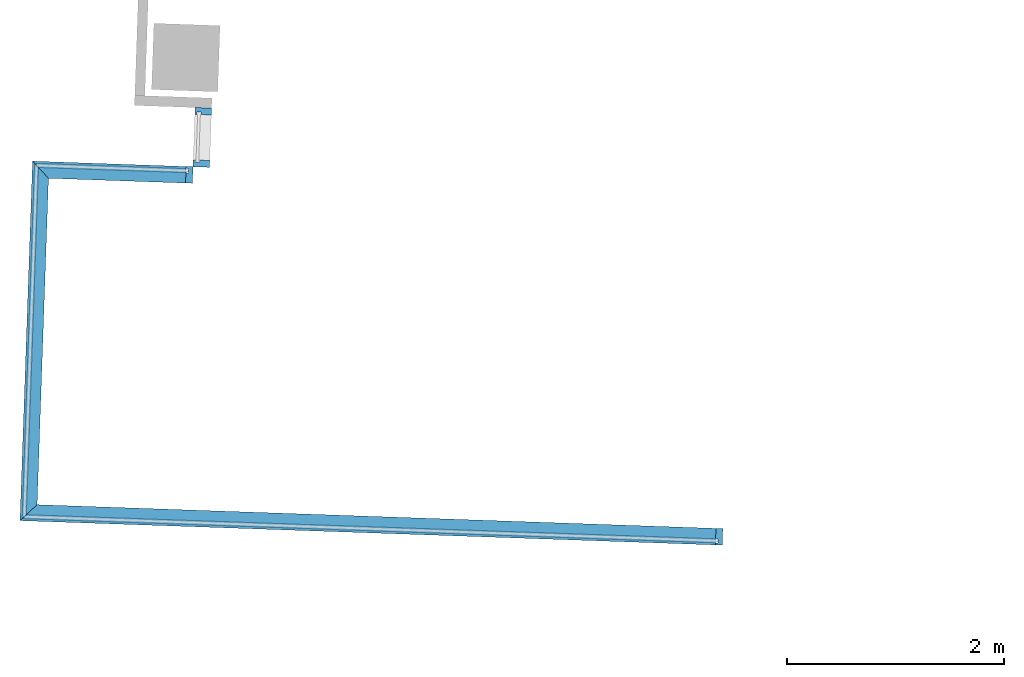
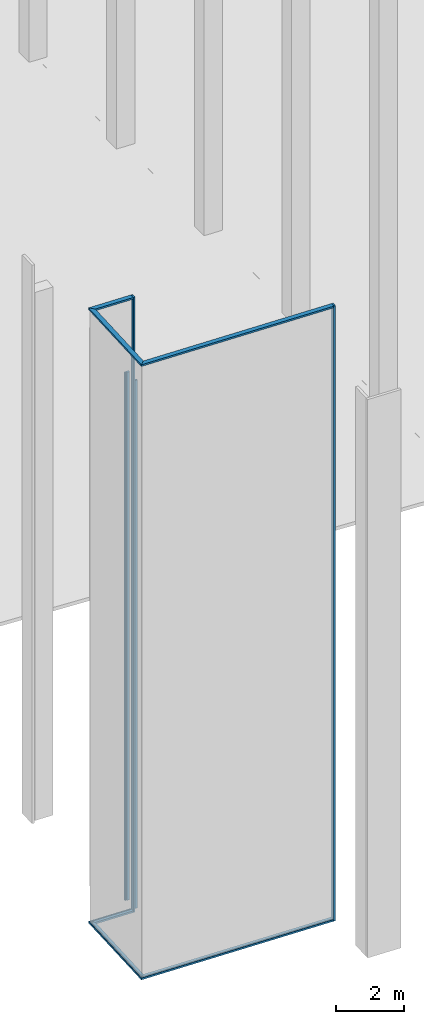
# One storey, part 8 of 44: 10 members, 4 elements without a shape of their own.
"""IFC2X3 building model written with IfcOpenShell, lengths in feet."""

from ifc_helpers import new_model, entity, si_unit, converted_unit, derived_unit, direction, frame, origin, place, context, subcontext, project, spatial, polyline, outline, extrude, clip, halfspace, material, type_object, element, aggregate, save


model = new_model("IFC2X3")

# Units and contexts
model_context = context("Model", 3, precision=0.0001, world=origin(), true_north=direction((0.999390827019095, 0.0348994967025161)))
body_context = subcontext(model_context, "Body", "Model", "MODEL_VIEW")
ifc_project = project(units=[converted_unit("LENGTHUNIT", "FOOT", entity("IfcRatioMeasure", 0.3048), si_unit("LENGTHUNIT", "METRE"), dimensions=[1, 0, 0, 0, 0, 0, 0]), converted_unit("AREAUNIT", "SQUARE FOOT", entity("IfcRatioMeasure", 0.09290304), si_unit("AREAUNIT", "SQUARE_METRE"), dimensions=[2, 0, 0, 0, 0, 0, 0]), converted_unit("VOLUMEUNIT", "CUBIC FOOT", entity("IfcRatioMeasure", 0.028316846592), si_unit("VOLUMEUNIT", "CUBIC_METRE"), dimensions=[3, 0, 0, 0, 0, 0, 0]), converted_unit("PLANEANGLEUNIT", "DEGREE", entity("IfcRatioMeasure", 0.0174532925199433), si_unit("PLANEANGLEUNIT", "RADIAN"), dimensions=[0, 0, 0, 0, 0, 0, 0]), si_unit("MASSUNIT", "GRAM", prefix="KILO"), si_unit("TIMEUNIT", "SECOND"), si_unit("FREQUENCYUNIT", "HERTZ"), si_unit("THERMODYNAMICTEMPERATUREUNIT", "DEGREE_CELSIUS"), derived_unit("THERMALTRANSMITTANCEUNIT", [(si_unit("MASSUNIT", "GRAM", prefix="KILO"), 1), (si_unit("THERMODYNAMICTEMPERATUREUNIT", "KELVIN"), -1), (si_unit("TIMEUNIT", "SECOND"), -3)]), derived_unit("VOLUMETRICFLOWRATEUNIT", [(si_unit("LENGTHUNIT", "METRE"), 3), (si_unit("TIMEUNIT", "SECOND"), -1)]), si_unit("ELECTRICCURRENTUNIT", "AMPERE"), si_unit("ELECTRICVOLTAGEUNIT", "VOLT"), si_unit("POWERUNIT", "WATT"), si_unit("FORCEUNIT", "NEWTON"), si_unit("ILLUMINANCEUNIT", "LUX"), si_unit("LUMINOUSFLUXUNIT", "LUMEN"), si_unit("LUMINOUSINTENSITYUNIT", "CANDELA"), derived_unit("USERDEFINED", [(si_unit("MASSUNIT", "GRAM", prefix="KILO"), -1), (si_unit("LENGTHUNIT", "METRE"), -2), (si_unit("TIMEUNIT", "SECOND"), 3), (si_unit("LUMINOUSFLUXUNIT", "LUMEN"), 1)]), derived_unit("LINEARVELOCITYUNIT", [(si_unit("LENGTHUNIT", "METRE"), 1), (si_unit("TIMEUNIT", "SECOND"), -1)]), si_unit("PRESSUREUNIT", "PASCAL"), derived_unit("USERDEFINED", [(si_unit("LENGTHUNIT", "METRE"), -2), (si_unit("MASSUNIT", "GRAM", prefix="KILO"), 1), (si_unit("TIMEUNIT", "SECOND"), -2)])], contexts=[model_context])

# Site, building, storey
site_placement = place(None, frame((892.518771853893, 322.38689265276, 0.00393700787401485), z_axis=(0.0, 0.0, 1.0), x_axis=(0.0348994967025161, 0.999390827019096, 0.0)))
site = spatial("IfcSite", under=ifc_project, at=site_placement, Name="Default", CompositionType="ELEMENT")
building_placement = place(site_placement, origin())
building = spatial("IfcBuilding", under=site, at=building_placement, CompositionType="ELEMENT")
storey_placement = place(building_placement, frame((0.0, 0.0, 544.75)))
storey = spatial("IfcBuildingStorey", under=building, at=storey_placement, Name="Exist Garage - Ground Level", CompositionType="ELEMENT", Elevation=544.75)

# Curtain wall, members
curtain_wall_type = type_object("IfcCurtainWallType", Name="Curtain Wall:(Existing) Curtainwall - Blank", PredefinedType="NOTDEFINED")
curtain_wall_1_placement = place(storey_placement, frame((0.0, 0.0, -544.75)))
curtain_wall_1 = element("IfcCurtainWall", 1, at=curtain_wall_1_placement, inside=storey, type_object=curtain_wall_type, Name="Curtain Wall:(Existing) Curtainwall - Blank", ObjectType="Curtain Wall:(Existing) Curtainwall - Blank")
ifc_material = material(Name="Metal - Aluminum")
member_1_placement = place(curtain_wall_1_placement, frame((0.0, 0.0, 544.75)))
member_1 = element("IfcMember", 2, at=member_1_placement, material=ifc_material, Name="Curtain Wall:(Existing) Curtainwall - Blank", ObjectType="Curtain Wall:(Existing) Curtainwall - Blank", context=body_context, shape_type="Clipping", body=[
    clip(extrude(outline(polyline([(-0.0716145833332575, -0.3125), (0.136718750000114, -0.3125), (0.136718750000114, 0.1875), (-0.0716145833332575, 0.1875), (-0.0716145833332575, 0.125), (0.00651041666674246, 0.125), (0.00651041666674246, 0.0), (-0.0716145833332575, 0.0), (-0.0716145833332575, -0.3125)])), frame((-184.051912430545, 440.248246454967, 0.136718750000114), z_axis=(0.0, 1.0, 0.0), x_axis=(0.0, 0.0, -1.0)), (0.0, 0.0, 1.0), 21.0365403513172), halfspace(frame((-184.114412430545, 461.159786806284, 1.0), z_axis=(0.707106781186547, 0.707106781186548, 0.0), x_axis=(0.707106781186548, -0.707106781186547, 0.0)), False)),
])
member_2_placement = place(curtain_wall_1_placement, frame((0.0, 0.0, 544.75)))
member_2 = element("IfcMember", 3, at=member_2_placement, material=ifc_material, Name="Curtain Wall:(Existing) Curtainwall - Blank", ObjectType="Curtain Wall:(Existing) Curtainwall - Blank", context=body_context, shape_type="SweptSolid", body=[
    extrude(outline(polyline([(-0.3125, -0.13671875), (0.1875, -0.13671875), (0.1875, 0.0716145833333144), (0.125, 0.0716145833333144), (0.125, -0.00651041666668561), (0.0, -0.00651041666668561), (0.0, 0.0716145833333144), (-0.3125, 0.0716145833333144), (-0.3125, -0.13671875)])), frame((-184.051912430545, 440.176631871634, 72.5), z_axis=(0.0, 0.0, -1.0), x_axis=(-1.0, 0.0, 0.0)), (0.0, 0.0, 1.0), 72.5),
])
member_3_placement = place(curtain_wall_1_placement, frame((0.0, 0.0, 544.75)))
member_3 = element("IfcMember", 4, at=member_3_placement, material=ifc_material, Name="Curtain Wall:(Existing) Curtainwall - Blank", ObjectType="Curtain Wall:(Existing) Curtainwall - Blank", context=body_context, shape_type="Clipping", body=[
    clip(extrude(outline(polyline([(-0.136718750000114, -0.187500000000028), (0.0716145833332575, -0.187500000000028), (0.0716145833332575, -0.125000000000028), (-0.00651041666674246, -0.125000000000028), (-0.00651041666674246, 0.0), (0.0716145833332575, 0.0), (0.0716145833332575, 0.312499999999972), (-0.136718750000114, 0.312499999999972), (-0.136718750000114, -0.187500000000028)])), frame((-184.051912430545, 461.284786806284, 72.3632812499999), z_axis=(0.0, -1.0, 0.0), x_axis=(0.0, 0.0, -1.0)), (0.0, 0.0, 1.0), 21.0365403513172), halfspace(frame((-184.114412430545, 461.159786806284, 71.5), z_axis=(0.707106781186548, 0.707106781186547, 0.0), x_axis=(0.707106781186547, -0.707106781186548, 0.0)), False)),
])
aggregate(curtain_wall_1, [member_1, member_2, member_3])

curtain_wall_2_placement = place(storey_placement, frame((0.0, 0.0, -544.75)))
curtain_wall_2 = element("IfcCurtainWall", 5, at=curtain_wall_2_placement, inside=storey, type_object=curtain_wall_type, Name="Curtain Wall:(Existing) Curtainwall - Blank", ObjectType="Curtain Wall:(Existing) Curtainwall - Blank")
member_4_placement = place(curtain_wall_2_placement, frame((0.0, 0.0, 544.75)))
member_4 = element("IfcMember", 6, at=member_4_placement, material=ifc_material, Name="Curtain Wall:(Existing) Curtainwall - Blank", ObjectType="Curtain Wall:(Existing) Curtainwall - Blank", context=body_context, shape_type="Clipping", body=[
    clip(clip(extrude(outline(polyline([(-0.136718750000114, -0.187500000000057), (0.0716145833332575, -0.187500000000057), (0.0716145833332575, -0.125000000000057), (-0.00651041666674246, -0.125000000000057), (-0.00651041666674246, 0.0), (0.0716145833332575, 0.0), (0.0716145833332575, 0.312499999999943), (-0.136718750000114, 0.312499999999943), (-0.136718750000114, -0.187500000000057)])), frame((-173.364412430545, 461.097286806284, 72.3632812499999), z_axis=(-1.0, 0.0, 0.0), x_axis=(0.0, 0.0, -1.0)), (0.0, 0.0, 1.0), 10.875), halfspace(frame((-184.114412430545, 461.159786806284, 71.5), z_axis=(-0.707106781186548, -0.707106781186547, 0.0), x_axis=(0.707106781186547, -0.707106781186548, 0.0)), False)), halfspace(frame((-173.489412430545, 461.159786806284, 71.5), z_axis=(0.707106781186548, -0.707106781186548, 0.0), x_axis=(0.707106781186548, 0.707106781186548, 0.0)), False)),
])
member_5_placement = place(curtain_wall_2_placement, frame((0.0, 0.0, 544.75)))
member_5 = element("IfcMember", 7, at=member_5_placement, material=ifc_material, Name="Curtain Wall:(Existing) Curtainwall - Blank", ObjectType="Curtain Wall:(Existing) Curtainwall - Blank", context=body_context, shape_type="Clipping", body=[
    clip(clip(extrude(outline(polyline([(-0.0716145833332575, -0.312499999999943), (0.136718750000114, -0.312499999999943), (0.136718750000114, 0.187500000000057), (-0.0716145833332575, 0.187500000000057), (-0.0716145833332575, 0.125000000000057), (0.00651041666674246, 0.125000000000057), (0.00651041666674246, 0.0), (-0.0716145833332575, 0.0), (-0.0716145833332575, -0.312499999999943)])), frame((-184.239412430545, 461.097286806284, 0.136718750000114), z_axis=(1.0, 0.0, 0.0), x_axis=(0.0, 0.0, -1.0)), (0.0, 0.0, 1.0), 10.875), halfspace(frame((-184.114412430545, 461.159786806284, 1.0), z_axis=(-0.707106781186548, -0.707106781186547, 0.0), x_axis=(0.707106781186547, -0.707106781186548, 0.0)), False)), halfspace(frame((-173.489412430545, 461.159786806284, 1.0), z_axis=(0.707106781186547, -0.707106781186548, 0.0), x_axis=(0.707106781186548, 0.707106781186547, 0.0)), False)),
])
aggregate(curtain_wall_2, [member_4, member_5])

curtain_wall_3_placement = place(storey_placement, frame((0.0, 0.0, -544.75)))
curtain_wall_3 = element("IfcCurtainWall", 8, at=curtain_wall_3_placement, inside=storey, type_object=curtain_wall_type, Name="Curtain Wall:(Existing) Curtainwall - Blank", ObjectType="Curtain Wall:(Existing) Curtainwall - Blank")
member_6_placement = place(curtain_wall_3_placement, frame((0.0, 0.0, 544.75)))
member_6 = element("IfcMember", 9, at=member_6_placement, material=ifc_material, Name="Curtain Wall:(Existing) Curtainwall - Blank", ObjectType="Curtain Wall:(Existing) Curtainwall - Blank", context=body_context, shape_type="Clipping", body=[
    clip(extrude(outline(polyline([(-0.0716145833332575, -0.312500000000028), (0.136718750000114, -0.312500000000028), (0.136718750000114, 0.187499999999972), (-0.0716145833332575, 0.187499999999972), (-0.0716145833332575, 0.124999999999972), (0.00651041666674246, 0.124999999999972), (0.00651041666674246, 0.0), (-0.0716145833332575, 0.0), (-0.0716145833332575, -0.312500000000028)])), frame((-173.551912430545, 461.284786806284, 0.136718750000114), z_axis=(0.0, -1.0, 0.0), x_axis=(0.0, 0.0, -1.0)), (0.0, 0.0, 1.0), 4.64583333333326), halfspace(frame((-173.489412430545, 461.159786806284, 1.0), z_axis=(-0.707106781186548, 0.707106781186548, 0.0), x_axis=(0.707106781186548, 0.707106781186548, 0.0)), False)),
])
member_7_placement = place(curtain_wall_3_placement, frame((0.0, 0.0, 544.75)))
member_7 = element("IfcMember", 10, at=member_7_placement, material=ifc_material, Name="Curtain Wall:(Existing) Curtainwall - Blank", ObjectType="Curtain Wall:(Existing) Curtainwall - Blank", context=body_context, shape_type="SweptSolid", body=[
    extrude(outline(polyline([(0.0, -0.0716145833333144), (0.312500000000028, -0.0716145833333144), (0.312500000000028, 0.13671875), (-0.187499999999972, 0.13671875), (-0.187499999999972, -0.0716145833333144), (-0.124999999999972, -0.0716145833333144), (-0.124999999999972, 0.00651041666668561), (0.0, 0.00651041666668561), (0.0, -0.0716145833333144)])), frame((-173.551912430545, 456.567338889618, 0.0), z_axis=(0.0, 0.0, 1.0), x_axis=(-1.0, 0.0, 0.0)), (0.0, 0.0, 1.0), 72.5),
])
member_8_placement = place(curtain_wall_3_placement, frame((0.0, 0.0, 544.75)))
member_8 = element("IfcMember", 11, at=member_8_placement, material=ifc_material, Name="Curtain Wall:(Existing) Curtainwall - Blank", ObjectType="Curtain Wall:(Existing) Curtainwall - Blank", context=body_context, shape_type="Clipping", body=[
    clip(extrude(outline(polyline([(-0.136718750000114, -0.187499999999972), (0.0716145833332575, -0.187499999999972), (0.0716145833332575, -0.124999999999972), (-0.00651041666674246, -0.124999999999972), (-0.00651041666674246, 0.0), (0.0716145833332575, 0.0), (0.0716145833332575, 0.312500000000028), (-0.136718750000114, 0.312500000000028), (-0.136718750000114, -0.187499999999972)])), frame((-173.551912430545, 456.638953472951, 72.3632812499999), z_axis=(0.0, 1.0, 0.0), x_axis=(0.0, 0.0, -1.0)), (0.0, 0.0, 1.0), 4.64583333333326), halfspace(frame((-173.489412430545, 461.159786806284, 71.5), z_axis=(-0.707106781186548, 0.707106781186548, 0.0), x_axis=(0.707106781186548, 0.707106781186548, 0.0)), False)),
])
aggregate(curtain_wall_3, [member_6, member_7, member_8])

curtain_wall_4_placement = place(storey_placement, frame((0.0, 0.0, -544.75)))
curtain_wall_4 = element("IfcCurtainWall", 12, at=curtain_wall_4_placement, inside=storey, type_object=curtain_wall_type, Name="Curtain Wall:(Existing) Curtainwall - Blank", ObjectType="Curtain Wall:(Existing) Curtainwall - Blank")
member_9_placement = place(curtain_wall_4_placement, frame((0.0, 0.0, 544.75)))
member_9 = element("IfcMember", 13, at=member_9_placement, material=ifc_material, Name="Curtain Wall:(Existing) Curtainwall - Blank", ObjectType="Curtain Wall:(Existing) Curtainwall - Blank", context=body_context, shape_type="SweptSolid", body=[
    extrude(outline(polyline([(-0.13671875, -0.312499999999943), (0.0716145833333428, -0.312499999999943), (0.0716145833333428, 0.0), (-0.00651041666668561, 0.0), (-0.00651041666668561, 0.125000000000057), (0.0716145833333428, 0.125000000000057), (0.0716145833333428, 0.187500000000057), (-0.13671875, 0.187500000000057), (-0.13671875, -0.312499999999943)])), frame((-171.709464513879, 456.243120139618, 62.25), z_axis=(0.0, 0.0, -1.0), x_axis=(-1.0, 0.0, 0.0)), (0.0, 0.0, 1.0), 62.25),
])
member_10_placement = place(curtain_wall_4_placement, frame((0.0, 0.0, 544.75)))
member_10 = element("IfcMember", 14, at=member_10_placement, material=ifc_material, Name="Curtain Wall:(Existing) Curtainwall - Blank", ObjectType="Curtain Wall:(Existing) Curtainwall - Blank", context=body_context, shape_type="SweptSolid", body=[
    extrude(outline(polyline([(-0.0716145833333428, -0.187500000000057), (0.13671875, -0.187500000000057), (0.13671875, 0.312499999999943), (-0.0716145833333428, 0.312499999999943), (-0.0716145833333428, 0.0), (0.00651041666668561, 0.0), (0.00651041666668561, -0.125000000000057), (-0.0716145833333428, -0.125000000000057), (-0.0716145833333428, -0.187500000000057)])), frame((-173.227693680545, 456.243120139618, 0.0), z_axis=(0.0, 0.0, 1.0), x_axis=(-1.0, 0.0, 0.0)), (0.0, 0.0, 1.0), 62.25),
])
aggregate(curtain_wall_4, [member_9, member_10])

save(model, "model.ifc")
